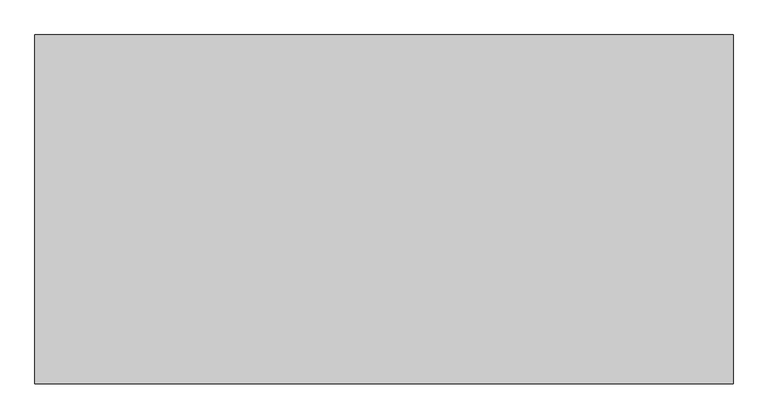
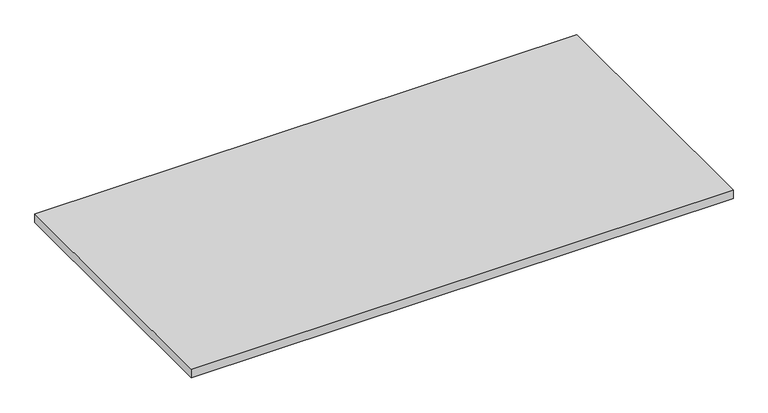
"""IFC4 building model written with IfcOpenShell, lengths in millimetres: light fixture geometry, GENILED_Светильник светодиодный_ЛПО Advanced : ЛПО Advanced 1200х600х20 100Вт Опал."""

from ifc_helpers import new_model, si_unit, origin, place, context, project, spatial, faceted_brep, source, transform, mapped, element, save


def light_fixture_4e9e6f2b(model_context):
    return source(origin(), model_context, "Body", "Brep", [
        faceted_brep([(600.0, 300.0, 20.0), (-600.0, 300.0, 20.0), (-600.0, -300.0, 20.0), (600.0, -300.0, 20.0), (590.0, 290.0, 5.0), (590.0, -290.0, 5.0), (-590.0, -290.0, 5.0), (-590.0, 290.0, 5.0), (600.0, 300.0, 0.0), (600.0, -300.0, 0.0), (-600.0, -300.0, 0.0), (-600.0, 300.0, 0.0), (590.0, 290.0, 0.0), (-590.0, 290.0, 0.0), (-590.0, -290.0, 0.0), (590.0, -290.0, 0.0)], [[[0, 1, 2, 3]], [[4, 5, 6, 7]], [[8, 9, 10, 11], [12, 13, 14, 15]], [[1, 0, 8, 11]], [[2, 1, 11, 10]], [[3, 2, 10, 9]], [[0, 3, 9, 8]], [[12, 15, 5, 4]], [[15, 14, 6, 5]], [[14, 13, 7, 6]], [[13, 12, 4, 7]]]),
    ])


if __name__ == "__main__":
    model = new_model("IFC4")
    model_context = context("Model", 3, world=origin())
    ifc_project = project(units=[si_unit("LENGTHUNIT", "METRE", prefix="MILLI")], contexts=[model_context])
    site = spatial("IfcSite", under=ifc_project)
    building = spatial("IfcBuilding", under=site)
    placement = place(None, origin())
    light_fixture_shape = light_fixture_4e9e6f2b(model_context)
    element("IfcLightFixture", 1, ObjectType="GENILED_Светильник светодиодный_ЛПО Advanced : ЛПО Advanced 1200х600х20 100Вт Опал", at=placement, inside=building, context=model_context, shape_type="MappedRepresentation", body=[
        mapped(light_fixture_shape, transform((0.0, 0.0, 0.0), x_axis=(1.0, 0.0, 0.0), y_axis=(0.0, 1.0, 0.0), z_axis=(0.0, 0.0, 1.0))),
    ])
    save(model, "model.ifc")
